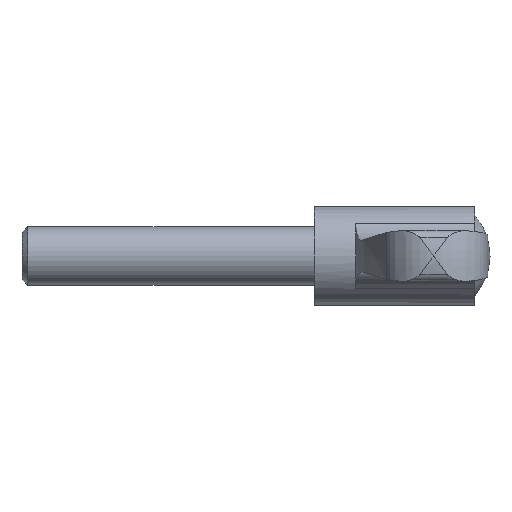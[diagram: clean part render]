
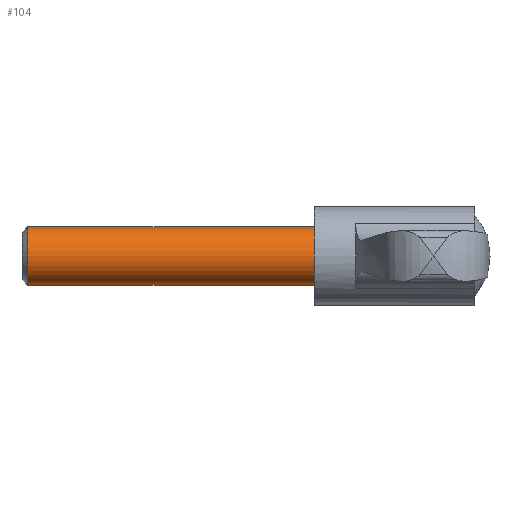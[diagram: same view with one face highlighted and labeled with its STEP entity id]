
A CAD part, front view. The second image highlights one B-rep face of the part: STEP entity #104.
In plain terms, the highlighted cylindrical face has radius 4 mm (diameter 8 mm), a full revolution.
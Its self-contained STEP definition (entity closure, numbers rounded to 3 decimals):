
#104 = ADVANCED_FACE( '', ( #176, #177 ), #178, .T. );
#176 = FACE_OUTER_BOUND( '', #275, .T. );
#177 = FACE_OUTER_BOUND( '', #276, .T. );
#178 = CYLINDRICAL_SURFACE( '', #277, 4. );
#275 = EDGE_LOOP( '', ( #552 ) );
#276 = EDGE_LOOP( '', ( #553 ) );
#277 = AXIS2_PLACEMENT_3D( '', #554, #555, #556 );
#552 = ORIENTED_EDGE( '', *, *, #659, .F. );
#553 = ORIENTED_EDGE( '', *, *, #579, .T. );
#554 = CARTESIAN_POINT( '', ( -40., 0., 0. ) );
#555 = DIRECTION( '', ( 1., 0., 0. ) );
#556 = DIRECTION( '', ( 0., -1., 0. ) );
#579 = EDGE_CURVE( '', #673, #673, #674, .T. );
#659 = EDGE_CURVE( '', #797, #797, #798, .T. );
#673 = VERTEX_POINT( '', #835 );
#674 = CIRCLE( '', #836, 4. );
#797 = VERTEX_POINT( '', #1385 );
#798 = CIRCLE( '', #1386, 4. );
#835 = CARTESIAN_POINT( '', ( 0., -4., 0. ) );
#836 = AXIS2_PLACEMENT_3D( '', #1397, #1398, #1399 );
#1385 = CARTESIAN_POINT( '', ( -39.233, -4., 0. ) );
#1386 = AXIS2_PLACEMENT_3D( '', #1484, #1485, #1486 );
#1397 = CARTESIAN_POINT( '', ( 0., 0., 0. ) );
#1398 = DIRECTION( '', ( -1., 0., 0. ) );
#1399 = DIRECTION( '', ( 0., -1., 0. ) );
#1484 = CARTESIAN_POINT( '', ( -39.233, 0., 0. ) );
#1485 = DIRECTION( '', ( -1., 0., 0. ) );
#1486 = DIRECTION( '', ( 0., -1., 0. ) );
